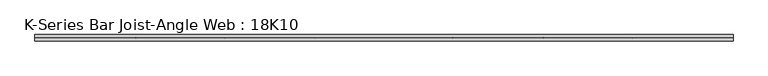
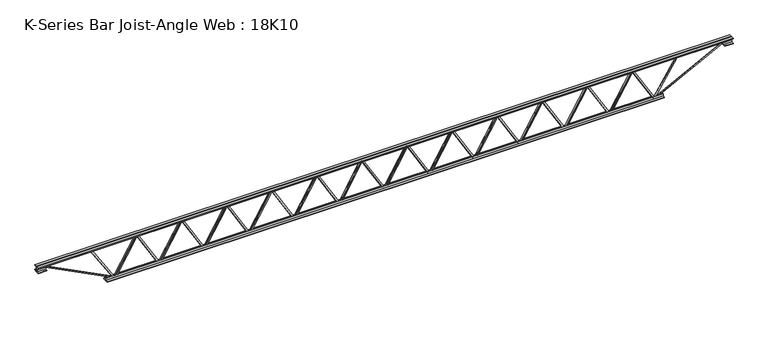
"""IFC4 building model written with IfcOpenShell, lengths in millimetres: beam geometry, K-Series Bar Joist-Angle Web : 18K10."""

from ifc_helpers import new_model, si_unit, frame, origin, place, context, project, spatial, polyline, outline, extrude, faceted_brep, source, transform, mapped, element, save


def k_series_bar_joist_angle_web_18k10_630fe876(model_context):
    return source(origin(), model_context, "Body", "SolidModel", [
        extrude(outline(polyline([(-4.75, 4.7625001), (-4.75, 0.0), (-17.45, 0.0), (-17.45, 4.7625001), (-4.75, 4.7625001)])), frame((2638.8700842, 0.0, -190.4), z_axis=(-0.5078245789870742, 0.0, 0.8614605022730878), x_axis=(0.0, -1.0, 0.0)), (0.0, 0.0, 1.0), 442.0399995),
        extrude(outline(polyline([(-225.325, 2671.25), (-206.275, 2671.25), (-206.275, 2670.3418872), (225.325, 2415.9168872), (225.325, 2397.775), (206.275, 2397.775), (206.275, 2405.0331128), (-225.325, 2659.4581128), (-225.325, 2671.25)])), frame((0.0, 0.0, 0.0), z_axis=(0.0, 1.0, 0.0), x_axis=(0.0, 0.0, 1.0)), (0.0, 0.0, 1.0), 4.75),
        faceted_brep([(2137.0, 0.0, -206.275), (2137.0, 0.0, -225.325), (2137.0, -4.75, -225.325), (2137.0, -4.75, -206.275), (2137.9081128, 0.0, -206.275), (2392.3331128, 0.0, 225.325), (2410.475, 0.0, 225.325), (2410.475, 0.0, 206.275), (2403.2168872, 0.0, 206.275), (2148.7918872, 0.0, -225.325), (2148.7918872, -4.75, -225.325), (2169.3799158, -4.75, -190.4), (2165.2772101, -4.75, -187.9814854), (2389.7559868, -4.75, 192.8185146), (2393.8586924, -4.75, 190.4), (2403.2168872, -4.75, 206.275), (2410.475, -4.75, 206.275), (2410.475, -4.75, 225.325), (2392.3331128, -4.75, 225.325), (2137.9081128, -4.75, -206.275), (2393.8586924, -17.4625, 190.4), (2169.3799158, -17.4625, -190.4), (2165.2772101, -17.4625, -187.9814854), (2389.7559868, -17.4625, 192.8185146)], [[[0, 1, 2, 3]], [[1, 0, 4, 5, 6, 7, 8, 9]], [[2, 1, 9, 10]], [[3, 2, 10, 11, 12, 13, 14, 15, 16, 17, 18, 19]], [[0, 3, 19, 4]], [[9, 8, 15, 14, 20, 21, 11, 10]], [[5, 4, 19, 18]], [[7, 6, 17, 16]], [[8, 7, 16, 15]], [[6, 5, 18, 17]], [[21, 22, 12, 11]], [[20, 14, 13, 23]], [[22, 21, 20, 23]], [[12, 22, 23, 13]]]),
        extrude(outline(polyline([(-4.75, 4.7625001), (-4.75, 0.0), (-17.45, 0.0), (-17.45, 4.7625001), (-4.75, 4.7625001)])), frame((2104.6200842, 0.0, -190.4), z_axis=(-0.5078245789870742, 0.0, 0.8614605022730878), x_axis=(0.0, -1.0, 0.0)), (0.0, 0.0, 1.0), 442.0399995),
        extrude(outline(polyline([(-225.325, 2137.0), (-206.275, 2137.0), (-206.275, 2136.0918872), (225.325, 1881.6668872), (225.325, 1863.525), (206.275, 1863.525), (206.275, 1870.7831128), (-225.325, 2125.2081128), (-225.325, 2137.0)])), frame((0.0, 0.0, 0.0), z_axis=(0.0, 1.0, 0.0), x_axis=(0.0, 0.0, 1.0)), (0.0, 0.0, 1.0), 4.75),
        faceted_brep([(1602.75, 0.0, -206.275), (1602.75, 0.0, -225.325), (1602.75, -4.75, -225.325), (1602.75, -4.75, -206.275), (1603.6581128, 0.0, -206.275), (1858.0831128, 0.0, 225.325), (1876.225, 0.0, 225.325), (1876.225, 0.0, 206.275), (1868.9668872, 0.0, 206.275), (1614.5418872, 0.0, -225.325), (1614.5418872, -4.75, -225.325), (1635.1299158, -4.75, -190.4), (1631.0272101, -4.75, -187.9814854), (1855.5059868, -4.75, 192.8185146), (1859.6086924, -4.75, 190.4), (1868.9668872, -4.75, 206.275), (1876.225, -4.75, 206.275), (1876.225, -4.75, 225.325), (1858.0831128, -4.75, 225.325), (1603.6581128, -4.75, -206.275), (1859.6086924, -17.4625, 190.4), (1635.1299158, -17.4625, -190.4), (1631.0272101, -17.4625, -187.9814854), (1855.5059868, -17.4625, 192.8185146)], [[[0, 1, 2, 3]], [[1, 0, 4, 5, 6, 7, 8, 9]], [[2, 1, 9, 10]], [[3, 2, 10, 11, 12, 13, 14, 15, 16, 17, 18, 19]], [[0, 3, 19, 4]], [[9, 8, 15, 14, 20, 21, 11, 10]], [[5, 4, 19, 18]], [[7, 6, 17, 16]], [[8, 7, 16, 15]], [[6, 5, 18, 17]], [[21, 22, 12, 11]], [[20, 14, 13, 23]], [[22, 21, 20, 23]], [[12, 22, 23, 13]]]),
        extrude(outline(polyline([(-4.75, 4.7625001), (-4.75, 0.0), (-17.45, 0.0), (-17.45, 4.7625001), (-4.75, 4.7625001)])), frame((1570.3700842, 0.0, -190.4), z_axis=(-0.5078245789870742, 0.0, 0.8614605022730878), x_axis=(0.0, -1.0, 0.0)), (0.0, 0.0, 1.0), 442.0399995),
        extrude(outline(polyline([(-225.325, 1602.75), (-206.275, 1602.75), (-206.275, 1601.8418872), (225.325, 1347.4168872), (225.325, 1329.275), (206.275, 1329.275), (206.275, 1336.5331128), (-225.325, 1590.9581128), (-225.325, 1602.75)])), frame((0.0, 0.0, 0.0), z_axis=(0.0, 1.0, 0.0), x_axis=(0.0, 0.0, 1.0)), (0.0, 0.0, 1.0), 4.75),
        faceted_brep([(1068.5, 0.0, -206.275), (1068.5, 0.0, -225.325), (1068.5, -4.75, -225.325), (1068.5, -4.75, -206.275), (1069.4081128, 0.0, -206.275), (1323.8331128, 0.0, 225.325), (1341.975, 0.0, 225.325), (1341.975, 0.0, 206.275), (1334.7168872, 0.0, 206.275), (1080.2918872, 0.0, -225.325), (1080.2918872, -4.75, -225.325), (1100.8799158, -4.75, -190.4), (1096.7772101, -4.75, -187.9814854), (1321.2559868, -4.75, 192.8185146), (1325.3586924, -4.75, 190.4), (1334.7168872, -4.75, 206.275), (1341.975, -4.75, 206.275), (1341.975, -4.75, 225.325), (1323.8331128, -4.75, 225.325), (1069.4081128, -4.75, -206.275), (1325.3586924, -17.4625, 190.4), (1100.8799158, -17.4625, -190.4), (1096.7772101, -17.4625, -187.9814854), (1321.2559868, -17.4625, 192.8185146)], [[[0, 1, 2, 3]], [[1, 0, 4, 5, 6, 7, 8, 9]], [[2, 1, 9, 10]], [[3, 2, 10, 11, 12, 13, 14, 15, 16, 17, 18, 19]], [[0, 3, 19, 4]], [[9, 8, 15, 14, 20, 21, 11, 10]], [[5, 4, 19, 18]], [[7, 6, 17, 16]], [[8, 7, 16, 15]], [[6, 5, 18, 17]], [[21, 22, 12, 11]], [[20, 14, 13, 23]], [[22, 21, 20, 23]], [[12, 22, 23, 13]]]),
        extrude(outline(polyline([(-4.75, 4.7625001), (-4.75, 0.0), (-17.45, 0.0), (-17.45, 4.7625001), (-4.75, 4.7625001)])), frame((1036.1200842, 0.0, -190.4), z_axis=(-0.5078245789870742, 0.0, 0.8614605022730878), x_axis=(0.0, -1.0, 0.0)), (0.0, 0.0, 1.0), 442.0399995),
        extrude(outline(polyline([(-225.325, 1068.5), (-206.275, 1068.5), (-206.275, 1067.5918872), (225.325, 813.1668872), (225.325, 795.025), (206.275, 795.025), (206.275, 802.2831128), (-225.325, 1056.7081128), (-225.325, 1068.5)])), frame((0.0, 0.0, 0.0), z_axis=(0.0, 1.0, 0.0), x_axis=(0.0, 0.0, 1.0)), (0.0, 0.0, 1.0), 4.75),
        faceted_brep([(534.25, 0.0, -206.275), (534.25, 0.0, -225.325), (534.25, -4.75, -225.325), (534.25, -4.75, -206.275), (535.1581128, 0.0, -206.275), (789.5831128, 0.0, 225.325), (807.725, 0.0, 225.325), (807.725, 0.0, 206.275), (800.4668872, 0.0, 206.275), (546.0418872, 0.0, -225.325), (546.0418872, -4.75, -225.325), (566.6299158, -4.75, -190.4), (562.5272101, -4.75, -187.9814854), (787.0059868, -4.75, 192.8185146), (791.1086924, -4.75, 190.4), (800.4668872, -4.75, 206.275), (807.725, -4.75, 206.275), (807.725, -4.75, 225.325), (789.5831128, -4.75, 225.325), (535.1581128, -4.75, -206.275), (791.1086924, -17.4625, 190.4), (566.6299158, -17.4625, -190.4), (562.5272101, -17.4625, -187.9814854), (787.0059868, -17.4625, 192.8185146)], [[[0, 1, 2, 3]], [[1, 0, 4, 5, 6, 7, 8, 9]], [[2, 1, 9, 10]], [[3, 2, 10, 11, 12, 13, 14, 15, 16, 17, 18, 19]], [[0, 3, 19, 4]], [[9, 8, 15, 14, 20, 21, 11, 10]], [[5, 4, 19, 18]], [[7, 6, 17, 16]], [[8, 7, 16, 15]], [[6, 5, 18, 17]], [[21, 22, 12, 11]], [[20, 14, 13, 23]], [[22, 21, 20, 23]], [[12, 22, 23, 13]]]),
        extrude(outline(polyline([(-4.75, 4.7625001), (-4.75, 0.0), (-17.45, 0.0), (-17.45, 4.7625001), (-4.75, 4.7625001)])), frame((501.8700842, 0.0, -190.4), z_axis=(-0.5078245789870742, 0.0, 0.8614605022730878), x_axis=(0.0, -1.0, 0.0)), (0.0, 0.0, 1.0), 442.0399995),
        extrude(outline(polyline([(-225.325, 534.25), (-206.275, 534.25), (-206.275, 533.3418872), (225.325, 278.9168872), (225.325, 260.775), (206.275, 260.775), (206.275, 268.0331128), (-225.325, 522.4581128), (-225.325, 534.25)])), frame((0.0, 0.0, 0.0), z_axis=(0.0, 1.0, 0.0), x_axis=(0.0, 0.0, 1.0)), (0.0, 0.0, 1.0), 4.75),
        faceted_brep([(0.0, 0.0, -206.275), (0.0, 0.0, -225.325), (0.0, -4.75, -225.325), (0.0, -4.75, -206.275), (0.9081128, 0.0, -206.275), (255.3331128, 0.0, 225.325), (273.475, 0.0, 225.325), (273.475, 0.0, 206.275), (266.2168872, 0.0, 206.275), (11.7918872, 0.0, -225.325), (11.7918872, -4.75, -225.325), (32.3799158, -4.75, -190.4), (28.2772101, -4.75, -187.9814854), (252.7559868, -4.75, 192.8185146), (256.8586924, -4.75, 190.4), (266.2168872, -4.75, 206.275), (273.475, -4.75, 206.275), (273.475, -4.75, 225.325), (255.3331128, -4.75, 225.325), (0.9081128, -4.75, -206.275), (256.8586924, -17.4625, 190.4), (32.3799158, -17.4625, -190.4), (28.2772101, -17.4625, -187.9814854), (252.7559868, -17.4625, 192.8185146)], [[[0, 1, 2, 3]], [[1, 0, 4, 5, 6, 7, 8, 9]], [[2, 1, 9, 10]], [[3, 2, 10, 11, 12, 13, 14, 15, 16, 17, 18, 19]], [[0, 3, 19, 4]], [[9, 8, 15, 14, 20, 21, 11, 10]], [[5, 4, 19, 18]], [[7, 6, 17, 16]], [[8, 7, 16, 15]], [[6, 5, 18, 17]], [[21, 22, 12, 11]], [[20, 14, 13, 23]], [[22, 21, 20, 23]], [[12, 22, 23, 13]]]),
        extrude(outline(polyline([(-4.75, 4.7625001), (-4.75, 0.0), (-17.45, 0.0), (-17.45, 4.7625001), (-4.75, 4.7625001)])), frame((-32.3799158, 0.0, -190.4), z_axis=(-0.5078245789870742, 0.0, 0.8614605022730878), x_axis=(0.0, -1.0, 0.0)), (0.0, 0.0, 1.0), 442.0399995),
        extrude(outline(polyline([(-225.325, 0.0), (-206.275, 0.0), (-206.275, -0.9081128), (225.325, -255.3331128), (225.325, -273.475), (206.275, -273.475), (206.275, -266.2168872), (-225.325, -11.7918872), (-225.325, 0.0)])), frame((0.0, 0.0, 0.0), z_axis=(0.0, 1.0, 0.0), x_axis=(0.0, 0.0, 1.0)), (0.0, 0.0, 1.0), 4.75),
        faceted_brep([(-534.25, 0.0, -206.275), (-534.25, 0.0, -225.325), (-534.25, -4.75, -225.325), (-534.25, -4.75, -206.275), (-533.3418872, 0.0, -206.275), (-278.9168872, 0.0, 225.325), (-260.775, 0.0, 225.325), (-260.775, 0.0, 206.275), (-268.0331128, 0.0, 206.275), (-522.4581128, 0.0, -225.325), (-522.4581128, -4.75, -225.325), (-501.8700842, -4.75, -190.4), (-505.9727899, -4.75, -187.9814854), (-281.4940132, -4.75, 192.8185146), (-277.3913076, -4.75, 190.4), (-268.0331128, -4.75, 206.275), (-260.775, -4.75, 206.275), (-260.775, -4.75, 225.325), (-278.9168872, -4.75, 225.325), (-533.3418872, -4.75, -206.275), (-277.3913076, -17.4625, 190.4), (-501.8700842, -17.4625, -190.4), (-505.9727899, -17.4625, -187.9814854), (-281.4940132, -17.4625, 192.8185146)], [[[0, 1, 2, 3]], [[1, 0, 4, 5, 6, 7, 8, 9]], [[2, 1, 9, 10]], [[3, 2, 10, 11, 12, 13, 14, 15, 16, 17, 18, 19]], [[0, 3, 19, 4]], [[9, 8, 15, 14, 20, 21, 11, 10]], [[5, 4, 19, 18]], [[7, 6, 17, 16]], [[8, 7, 16, 15]], [[6, 5, 18, 17]], [[21, 22, 12, 11]], [[20, 14, 13, 23]], [[22, 21, 20, 23]], [[12, 22, 23, 13]]]),
        extrude(outline(polyline([(-4.75, 4.7625001), (-4.75, 0.0), (-17.45, 0.0), (-17.45, 4.7625001), (-4.75, 4.7625001)])), frame((-566.6299158, 0.0, -190.4), z_axis=(-0.5078245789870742, 0.0, 0.8614605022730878), x_axis=(0.0, -1.0, 0.0)), (0.0, 0.0, 1.0), 442.0399995),
        extrude(outline(polyline([(-225.325, -534.25), (-206.275, -534.25), (-206.275, -535.1581128), (225.325, -789.5831128), (225.325, -807.725), (206.275, -807.725), (206.275, -800.4668872), (-225.325, -546.0418872), (-225.325, -534.25)])), frame((0.0, 0.0, 0.0), z_axis=(0.0, 1.0, 0.0), x_axis=(0.0, 0.0, 1.0)), (0.0, 0.0, 1.0), 4.75),
        faceted_brep([(-1068.5, 0.0, -206.275), (-1068.5, 0.0, -225.325), (-1068.5, -4.75, -225.325), (-1068.5, -4.75, -206.275), (-1067.5918872, 0.0, -206.275), (-813.1668872, 0.0, 225.325), (-795.025, 0.0, 225.325), (-795.025, 0.0, 206.275), (-802.2831128, 0.0, 206.275), (-1056.7081128, 0.0, -225.325), (-1056.7081128, -4.75, -225.325), (-1036.1200842, -4.75, -190.4), (-1040.2227899, -4.75, -187.9814854), (-815.7440132, -4.75, 192.8185146), (-811.6413076, -4.75, 190.4), (-802.2831128, -4.75, 206.275), (-795.025, -4.75, 206.275), (-795.025, -4.75, 225.325), (-813.1668872, -4.75, 225.325), (-1067.5918872, -4.75, -206.275), (-811.6413076, -17.4625, 190.4), (-1036.1200842, -17.4625, -190.4), (-1040.2227899, -17.4625, -187.9814854), (-815.7440132, -17.4625, 192.8185146)], [[[0, 1, 2, 3]], [[1, 0, 4, 5, 6, 7, 8, 9]], [[2, 1, 9, 10]], [[3, 2, 10, 11, 12, 13, 14, 15, 16, 17, 18, 19]], [[0, 3, 19, 4]], [[9, 8, 15, 14, 20, 21, 11, 10]], [[5, 4, 19, 18]], [[7, 6, 17, 16]], [[8, 7, 16, 15]], [[6, 5, 18, 17]], [[21, 22, 12, 11]], [[20, 14, 13, 23]], [[22, 21, 20, 23]], [[12, 22, 23, 13]]]),
        extrude(outline(polyline([(-4.75, 4.7625001), (-4.75, 0.0), (-17.45, 0.0), (-17.45, 4.7625001), (-4.75, 4.7625001)])), frame((-1100.8799158, 0.0, -190.4), z_axis=(-0.5078245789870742, 0.0, 0.8614605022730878), x_axis=(0.0, -1.0, 0.0)), (0.0, 0.0, 1.0), 442.0399995),
        extrude(outline(polyline([(-225.325, -1068.5), (-206.275, -1068.5), (-206.275, -1069.4081128), (225.325, -1323.8331128), (225.325, -1341.975), (206.275, -1341.975), (206.275, -1334.7168872), (-225.325, -1080.2918872), (-225.325, -1068.5)])), frame((0.0, 0.0, 0.0), z_axis=(0.0, 1.0, 0.0), x_axis=(0.0, 0.0, 1.0)), (0.0, 0.0, 1.0), 4.75),
        faceted_brep([(-1602.75, 0.0, -206.275), (-1602.75, 0.0, -225.325), (-1602.75, -4.75, -225.325), (-1602.75, -4.75, -206.275), (-1601.8418872, 0.0, -206.275), (-1347.4168872, 0.0, 225.325), (-1329.275, 0.0, 225.325), (-1329.275, 0.0, 206.275), (-1336.5331128, 0.0, 206.275), (-1590.9581128, 0.0, -225.325), (-1590.9581128, -4.75, -225.325), (-1570.3700842, -4.75, -190.4), (-1574.4727899, -4.75, -187.9814854), (-1349.9940132, -4.75, 192.8185146), (-1345.8913076, -4.75, 190.4), (-1336.5331128, -4.75, 206.275), (-1329.275, -4.75, 206.275), (-1329.275, -4.75, 225.325), (-1347.4168872, -4.75, 225.325), (-1601.8418872, -4.75, -206.275), (-1345.8913076, -17.4625, 190.4), (-1570.3700842, -17.4625, -190.4), (-1574.4727899, -17.4625, -187.9814854), (-1349.9940132, -17.4625, 192.8185146)], [[[0, 1, 2, 3]], [[1, 0, 4, 5, 6, 7, 8, 9]], [[2, 1, 9, 10]], [[3, 2, 10, 11, 12, 13, 14, 15, 16, 17, 18, 19]], [[0, 3, 19, 4]], [[9, 8, 15, 14, 20, 21, 11, 10]], [[5, 4, 19, 18]], [[7, 6, 17, 16]], [[8, 7, 16, 15]], [[6, 5, 18, 17]], [[21, 22, 12, 11]], [[20, 14, 13, 23]], [[22, 21, 20, 23]], [[12, 22, 23, 13]]]),
        extrude(outline(polyline([(-4.75, 4.7625001), (-4.75, 0.0), (-17.45, 0.0), (-17.45, 4.7625001), (-4.75, 4.7625001)])), frame((-1635.1299158, 0.0, -190.4), z_axis=(-0.5078245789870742, 0.0, 0.8614605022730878), x_axis=(0.0, -1.0, 0.0)), (0.0, 0.0, 1.0), 442.0399995),
        extrude(outline(polyline([(-225.325, -1602.75), (-206.275, -1602.75), (-206.275, -1603.6581128), (225.325, -1858.0831128), (225.325, -1876.225), (206.275, -1876.225), (206.275, -1868.9668872), (-225.325, -1614.5418872), (-225.325, -1602.75)])), frame((0.0, 0.0, 0.0), z_axis=(0.0, 1.0, 0.0), x_axis=(0.0, 0.0, 1.0)), (0.0, 0.0, 1.0), 4.75),
        faceted_brep([(-2137.0, 0.0, -206.275), (-2137.0, 0.0, -225.325), (-2137.0, -4.75, -225.325), (-2137.0, -4.75, -206.275), (-2136.0918872, 0.0, -206.275), (-1881.6668872, 0.0, 225.325), (-1863.525, 0.0, 225.325), (-1863.525, 0.0, 206.275), (-1870.7831128, 0.0, 206.275), (-2125.2081128, 0.0, -225.325), (-2125.2081128, -4.75, -225.325), (-2104.6200842, -4.75, -190.4), (-2108.7227899, -4.75, -187.9814854), (-1884.2440132, -4.75, 192.8185146), (-1880.1413076, -4.75, 190.4), (-1870.7831128, -4.75, 206.275), (-1863.525, -4.75, 206.275), (-1863.525, -4.75, 225.325), (-1881.6668872, -4.75, 225.325), (-2136.0918872, -4.75, -206.275), (-1880.1413076, -17.4625, 190.4), (-2104.6200842, -17.4625, -190.4), (-2108.7227899, -17.4625, -187.9814854), (-1884.2440132, -17.4625, 192.8185146)], [[[0, 1, 2, 3]], [[1, 0, 4, 5, 6, 7, 8, 9]], [[2, 1, 9, 10]], [[3, 2, 10, 11, 12, 13, 14, 15, 16, 17, 18, 19]], [[0, 3, 19, 4]], [[9, 8, 15, 14, 20, 21, 11, 10]], [[5, 4, 19, 18]], [[7, 6, 17, 16]], [[8, 7, 16, 15]], [[6, 5, 18, 17]], [[21, 22, 12, 11]], [[20, 14, 13, 23]], [[22, 21, 20, 23]], [[12, 22, 23, 13]]]),
        extrude(outline(polyline([(-4.75, 4.7625001), (-4.75, 0.0), (-17.45, 0.0), (-17.45, 4.7625001), (-4.75, 4.7625001)])), frame((-2169.3799158, 0.0, -190.4), z_axis=(-0.5078245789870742, 0.0, 0.8614605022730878), x_axis=(0.0, -1.0, 0.0)), (0.0, 0.0, 1.0), 442.0399995),
        extrude(outline(polyline([(-225.325, -2137.0), (-206.275, -2137.0), (-206.275, -2137.9081128), (225.325, -2392.3331128), (225.325, -2410.475), (206.275, -2410.475), (206.275, -2403.2168872), (-225.325, -2148.7918872), (-225.325, -2137.0)])), frame((0.0, 0.0, 0.0), z_axis=(0.0, 1.0, 0.0), x_axis=(0.0, 0.0, 1.0)), (0.0, 0.0, 1.0), 4.75),
        faceted_brep([(-2671.25, 0.0, -206.275), (-2671.25, 0.0, -225.325), (-2671.25, -4.75, -225.325), (-2671.25, -4.75, -206.275), (-2670.3418872, 0.0, -206.275), (-2415.9168872, 0.0, 225.325), (-2397.775, 0.0, 225.325), (-2397.775, 0.0, 206.275), (-2405.0331128, 0.0, 206.275), (-2659.4581128, 0.0, -225.325), (-2659.4581128, -4.75, -225.325), (-2638.8700842, -4.75, -190.4), (-2642.9727899, -4.75, -187.9814854), (-2418.4940132, -4.75, 192.8185146), (-2414.3913076, -4.75, 190.4), (-2405.0331128, -4.75, 206.275), (-2397.775, -4.75, 206.275), (-2397.775, -4.75, 225.325), (-2415.9168872, -4.75, 225.325), (-2670.3418872, -4.75, -206.275), (-2414.3913076, -17.4625, 190.4), (-2638.8700842, -17.4625, -190.4), (-2642.9727899, -17.4625, -187.9814854), (-2418.4940132, -17.4625, 192.8185146)], [[[0, 1, 2, 3]], [[1, 0, 4, 5, 6, 7, 8, 9]], [[2, 1, 9, 10]], [[3, 2, 10, 11, 12, 13, 14, 15, 16, 17, 18, 19]], [[0, 3, 19, 4]], [[9, 8, 15, 14, 20, 21, 11, 10]], [[5, 4, 19, 18]], [[7, 6, 17, 16]], [[8, 7, 16, 15]], [[6, 5, 18, 17]], [[21, 22, 12, 11]], [[20, 14, 13, 23]], [[22, 21, 20, 23]], [[12, 22, 23, 13]]]),
        extrude(outline(polyline([(-4.75, 4.7625001), (-4.75, 0.0), (-17.45, 0.0), (-17.45, 4.7625001), (-4.75, 4.7625001)])), frame((3173.1200842, 0.0, -190.4), z_axis=(-0.5078245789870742, 0.0, 0.8614605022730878), x_axis=(0.0, -1.0, 0.0)), (0.0, 0.0, 1.0), 442.0399995),
        extrude(outline(polyline([(-225.325, 3205.5), (-206.275, 3205.5), (-206.275, 3204.5918872), (225.325, 2950.1668872), (225.325, 2932.025), (206.275, 2932.025), (206.275, 2939.2831128), (-225.325, 3193.7081128), (-225.325, 3205.5)])), frame((0.0, 0.0, 0.0), z_axis=(0.0, 1.0, 0.0), x_axis=(0.0, 0.0, 1.0)), (0.0, 0.0, 1.0), 4.75),
        faceted_brep([(2671.25, 0.0, -206.275), (2671.25, 0.0, -225.325), (2671.25, -4.75, -225.325), (2671.25, -4.75, -206.275), (2672.1581128, 0.0, -206.275), (2926.5831128, 0.0, 225.325), (2944.725, 0.0, 225.325), (2944.725, 0.0, 206.275), (2937.4668872, 0.0, 206.275), (2683.0418872, 0.0, -225.325), (2683.0418872, -4.75, -225.325), (2703.6299158, -4.75, -190.4), (2699.5272101, -4.75, -187.9814854), (2924.0059868, -4.75, 192.8185146), (2928.1086924, -4.75, 190.4), (2937.4668872, -4.75, 206.275), (2944.725, -4.75, 206.275), (2944.725, -4.75, 225.325), (2926.5831128, -4.75, 225.325), (2672.1581128, -4.75, -206.275), (2928.1086924, -17.4625, 190.4), (2703.6299158, -17.4625, -190.4), (2699.5272101, -17.4625, -187.9814854), (2924.0059868, -17.4625, 192.8185146)], [[[0, 1, 2, 3]], [[1, 0, 4, 5, 6, 7, 8, 9]], [[2, 1, 9, 10]], [[3, 2, 10, 11, 12, 13, 14, 15, 16, 17, 18, 19]], [[0, 3, 19, 4]], [[9, 8, 15, 14, 20, 21, 11, 10]], [[5, 4, 19, 18]], [[7, 6, 17, 16]], [[8, 7, 16, 15]], [[6, 5, 18, 17]], [[21, 22, 12, 11]], [[20, 14, 13, 23]], [[22, 21, 20, 23]], [[12, 22, 23, 13]]]),
        extrude(outline(polyline([(-4.75, 4.7625001), (-4.75, 0.0), (-17.45, 0.0), (-17.45, 4.7625001), (-4.75, 4.7625001)])), frame((-2703.6299158, 0.0, -190.4), z_axis=(-0.5078245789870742, 0.0, 0.8614605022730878), x_axis=(0.0, -1.0, 0.0)), (0.0, 0.0, 1.0), 442.0399995),
        extrude(outline(polyline([(-225.325, -2671.25), (-206.275, -2671.25), (-206.275, -2672.1581128), (225.325, -2926.5831128), (225.325, -2944.725), (206.275, -2944.725), (206.275, -2937.4668872), (-225.325, -2683.0418872), (-225.325, -2671.25)])), frame((0.0, 0.0, 0.0), z_axis=(0.0, 1.0, 0.0), x_axis=(0.0, 0.0, 1.0)), (0.0, 0.0, 1.0), 4.75),
        faceted_brep([(-3205.5, 0.0, -206.275), (-3205.5, 0.0, -225.325), (-3205.5, -4.75, -225.325), (-3205.5, -4.75, -206.275), (-3204.5918872, 0.0, -206.275), (-2950.1668872, 0.0, 225.325), (-2932.025, 0.0, 225.325), (-2932.025, 0.0, 206.275), (-2939.2831128, 0.0, 206.275), (-3193.7081128, 0.0, -225.325), (-3193.7081128, -4.75, -225.325), (-3173.1200842, -4.75, -190.4), (-3177.2227899, -4.75, -187.9814854), (-2952.7440132, -4.75, 192.8185146), (-2948.6413076, -4.75, 190.4), (-2939.2831128, -4.75, 206.275), (-2932.025, -4.75, 206.275), (-2932.025, -4.75, 225.325), (-2950.1668872, -4.75, 225.325), (-3204.5918872, -4.75, -206.275), (-2948.6413076, -17.4625, 190.4), (-3173.1200842, -17.4625, -190.4), (-3177.2227899, -17.4625, -187.9814854), (-2952.7440132, -17.4625, 192.8185146)], [[[0, 1, 2, 3]], [[1, 0, 4, 5, 6, 7, 8, 9]], [[2, 1, 9, 10]], [[3, 2, 10, 11, 12, 13, 14, 15, 16, 17, 18, 19]], [[0, 3, 19, 4]], [[9, 8, 15, 14, 20, 21, 11, 10]], [[5, 4, 19, 18]], [[7, 6, 17, 16]], [[8, 7, 16, 15]], [[6, 5, 18, 17]], [[21, 22, 12, 11]], [[20, 14, 13, 23]], [[22, 21, 20, 23]], [[12, 22, 23, 13]]]),
        extrude(outline(polyline([(4.75, 228.5), (36.75, 228.5), (36.75, 222.0), (11.25, 222.0), (11.25, 196.5), (4.75, 196.5), (4.75, 228.5)])), frame((-4119.5, 0.0, 0.0), z_axis=(1.0, 0.0, 0.0), x_axis=(0.0, 1.0, 0.0)), (0.0, 0.0, 1.0), 8239.0),
        extrude(outline(polyline([(-4.75, 228.5), (-4.75, 196.5), (-11.25, 196.5), (-11.25, 222.0), (-36.75, 222.0), (-36.75, 228.5), (-4.75, 228.5)])), frame((-4119.5, 0.0, 0.0), z_axis=(1.0, 0.0, 0.0), x_axis=(0.0, 1.0, 0.0)), (0.0, 0.0, 1.0), 8239.0),
        extrude(outline(polyline([(4.75, -228.5), (4.75, -196.5), (11.25, -196.5), (11.25, -222.0), (36.75, -222.0), (36.75, -228.5), (4.75, -228.5)])), frame((-3305.5, 0.0, 0.0), z_axis=(1.0, 0.0, 0.0), x_axis=(0.0, 1.0, 0.0)), (0.0, 0.0, 1.0), 6611.0),
        extrude(outline(polyline([(-4.75, -228.5), (-36.75, -228.5), (-36.75, -222.0), (-11.25, -222.0), (-11.25, -196.5), (-4.75, -196.5), (-4.75, -228.5)])), frame((-3305.5, 0.0, 0.0), z_axis=(1.0, 0.0, 0.0), x_axis=(0.0, 1.0, 0.0)), (0.0, 0.0, 1.0), 6611.0),
        extrude(outline(polyline([(4.75, 165.0), (4.75, 196.5), (11.25, 196.5), (11.25, 171.5), (36.75, 171.5), (36.75, 165.0), (4.75, 165.0)])), frame((4019.5, 0.0, 0.0), z_axis=(1.0, 0.0, 0.0), x_axis=(0.0, 1.0, 0.0)), (0.0, 0.0, 1.0), 100.0),
        extrude(outline(polyline([(-4.75, 165.0), (-36.75, 165.0), (-36.75, 171.5), (-11.25, 171.5), (-11.25, 196.5), (-4.75, 196.5), (-4.75, 165.0)])), frame((4019.5, 0.0, 0.0), z_axis=(1.0, 0.0, 0.0), x_axis=(0.0, 1.0, 0.0)), (0.0, 0.0, 1.0), 100.0),
        extrude(outline(polyline([(-4.75, 165.0), (-36.75, 165.0), (-36.75, 171.5), (-11.25, 171.5), (-11.25, 196.5), (-4.75, 196.5), (-4.75, 165.0)])), frame((-4119.5, 0.0, 0.0), z_axis=(1.0, 0.0, 0.0), x_axis=(0.0, 1.0, 0.0)), (0.0, 0.0, 1.0), 100.0),
        extrude(outline(polyline([(36.75, 165.0), (4.75, 165.0), (4.75, 196.5), (11.25, 196.5), (11.25, 171.5), (36.75, 171.5), (36.75, 165.0)])), frame((-4119.5, 0.0, 0.0), z_axis=(1.0, 0.0, 0.0), x_axis=(0.0, 1.0, 0.0)), (0.0, 0.0, 1.0), 100.0),
        extrude(outline(polyline([(219.4566712, -3492.5821429), (200.4066712, -3492.5821429), (200.4066712, -3484.8490855), (-227.0017127, -3213.1316891), (-216.7814576, -3197.0553436), (219.4566712, -3474.3860957), (219.4566712, -3492.5821429)])), frame((0.0, 0.0, 0.0), z_axis=(0.0, 1.0, 0.0), x_axis=(0.0, 0.0, 1.0)), (0.0, 0.0, 1.0), 4.7625),
        extrude(outline(polyline([(-4.7625, -10.5646146), (-4.7625, 8.4853853), (0.0, 8.4853853), (0.0, -10.5646146), (-4.7625, -10.5646146)])), frame((3205.5, 0.0, -222.15), z_axis=(0.5378946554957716, 0.0, 0.8430120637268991), x_axis=(0.0, -1.0, 0.0)), (0.0, 0.0, 1.0), 496.6121103),
        extrude(outline(polyline([(-226.3740718, -3207.672491), (-217.9259282, -3203.327509), (201.25, -4018.3500948), (201.25, -4119.5), (191.75, -4119.5), (191.75, -4020.6499052), (-226.3740718, -3207.672491)])), frame((0.0, -4.75, 0.0), z_axis=(0.0, 1.0, 0.0), x_axis=(0.0, 0.0, 1.0)), (0.0, 0.0, 1.0), 9.5),
        extrude(outline(polyline([(0.0, -9.5), (0.0, 0.0), (915.3490168, 0.0), (915.3490168, -9.5), (0.0, -9.5)])), frame((4021.672491, -4.75, 192.2759282), z_axis=(-0.4573665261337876, 0.0, 0.8892782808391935), x_axis=(-0.8892782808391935, 0.0, -0.4573665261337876)), (0.0, 0.0, 1.0), 9.5),
    ])


if __name__ == "__main__":
    model = new_model("IFC4")
    model_context = context("Model", 3, world=origin())
    ifc_project = project(units=[si_unit("LENGTHUNIT", "METRE", prefix="MILLI")], contexts=[model_context])
    site = spatial("IfcSite", under=ifc_project)
    building = spatial("IfcBuilding", under=site)
    placement = place(None, origin())
    k_series_bar_joist_angle_web_18k10_shape = k_series_bar_joist_angle_web_18k10_630fe876(model_context)
    element("IfcBeam", 1, ObjectType="K-Series Bar Joist-Angle Web : 18K10", at=placement, inside=building, context=model_context, shape_type="MappedRepresentation", body=[
        mapped(k_series_bar_joist_angle_web_18k10_shape, transform((0.0, 0.0, 0.0), x_axis=(1.0, 0.0, 0.0), y_axis=(0.0, 1.0, 0.0), z_axis=(0.0, 0.0, 1.0))),
    ])
    save(model, "model.ifc")
